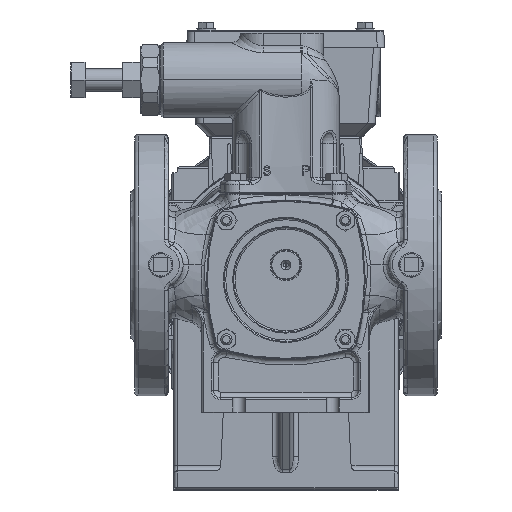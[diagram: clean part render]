
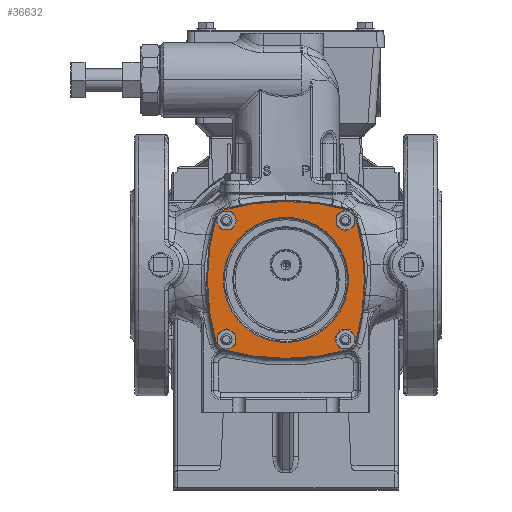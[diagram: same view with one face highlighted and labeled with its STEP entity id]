
A CAD part, top view. The second image highlights one B-rep face of the part: STEP entity #36632.
In plain terms, the highlighted planar face has unit normal (0, 0, 1) as drawn and (0, 0, -1) by its records, which use the part's own axes.
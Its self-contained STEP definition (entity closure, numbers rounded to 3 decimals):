
#34726=CARTESIAN_POINT('',(-31.82,31.82,2.));
#34727=DIRECTION('',(0.,0.,1.));
#34728=DIRECTION('',(1.,0.,0.));
#34729=AXIS2_PLACEMENT_3D('',#34726,#34727,#34728);
#34731=CARTESIAN_POINT('',(-31.82,31.82,2.));
#34732=DIRECTION('',(0.,0.,1.));
#34733=DIRECTION('',(-1.,0.,0.));
#34734=AXIS2_PLACEMENT_3D('',#34731,#34732,#34733);
#34736=CARTESIAN_POINT('',(31.82,31.82,2.));
#34737=DIRECTION('',(0.,0.,1.));
#34738=DIRECTION('',(0.,-1.,0.));
#34739=AXIS2_PLACEMENT_3D('',#34736,#34737,#34738);
#34741=CARTESIAN_POINT('',(31.82,31.82,2.));
#34742=DIRECTION('',(0.,0.,1.));
#34743=DIRECTION('',(0.,1.,0.));
#34744=AXIS2_PLACEMENT_3D('',#34741,#34742,#34743);
#34746=CARTESIAN_POINT('',(31.82,-31.82,2.));
#34747=DIRECTION('',(0.,0.,1.));
#34748=DIRECTION('',(-1.,0.,0.));
#34749=AXIS2_PLACEMENT_3D('',#34746,#34747,#34748);
#34751=CARTESIAN_POINT('',(31.82,-31.82,2.));
#34752=DIRECTION('',(0.,0.,1.));
#34753=DIRECTION('',(1.,0.,0.));
#34754=AXIS2_PLACEMENT_3D('',#34751,#34752,#34753);
#34756=CARTESIAN_POINT('',(-31.82,-31.82,2.));
#34757=DIRECTION('',(0.,0.,1.));
#34758=DIRECTION('',(0.,1.,0.));
#34759=AXIS2_PLACEMENT_3D('',#34756,#34757,#34758);
#34761=CARTESIAN_POINT('',(-31.82,-31.82,2.));
#34762=DIRECTION('',(0.,0.,1.));
#34763=DIRECTION('',(0.,-1.,0.));
#34764=AXIS2_PLACEMENT_3D('',#34761,#34762,#34763);
#34766=CARTESIAN_POINT('',(-32.901,-32.901,2.));
#34767=DIRECTION('',(0.,0.,1.));
#34768=DIRECTION('',(-0.962,-0.274,0.));
#34769=AXIS2_PLACEMENT_3D('',#34766,#34767,#34768);
#34771=CARTESIAN_POINT('',(0.,82.5,2.));
#34772=DIRECTION('',(0.,0.,1.));
#34773=DIRECTION('',(-0.274,-0.962,0.));
#34774=AXIS2_PLACEMENT_3D('',#34771,#34772,#34773);
#34776=CARTESIAN_POINT('',(32.901,-32.901,2.));
#34777=DIRECTION('',(0.,0.,1.));
#34778=DIRECTION('',(0.274,-0.962,0.));
#34779=AXIS2_PLACEMENT_3D('',#34776,#34777,#34778);
#34781=CARTESIAN_POINT('',(-82.5,0.,2.));
#34782=DIRECTION('',(0.,0.,1.));
#34783=DIRECTION('',(0.962,-0.274,0.));
#34784=AXIS2_PLACEMENT_3D('',#34781,#34782,#34783);
#34786=CARTESIAN_POINT('',(32.901,32.901,2.));
#34787=DIRECTION('',(0.,0.,1.));
#34788=DIRECTION('',(0.962,0.274,0.));
#34789=AXIS2_PLACEMENT_3D('',#34786,#34787,#34788);
#34791=CARTESIAN_POINT('',(0.,-82.5,2.));
#34792=DIRECTION('',(0.,0.,1.));
#34793=DIRECTION('',(0.274,0.962,0.));
#34794=AXIS2_PLACEMENT_3D('',#34791,#34792,#34793);
#34796=CARTESIAN_POINT('',(-32.901,32.901,2.));
#34797=DIRECTION('',(0.,0.,1.));
#34798=DIRECTION('',(-0.274,0.962,0.));
#34799=AXIS2_PLACEMENT_3D('',#34796,#34797,#34798);
#34801=CARTESIAN_POINT('',(82.5,0.,2.));
#34802=DIRECTION('',(0.,0.,1.));
#34803=DIRECTION('',(-0.962,0.274,0.));
#34804=AXIS2_PLACEMENT_3D('',#34801,#34802,#34803);
#34806=CARTESIAN_POINT('',(0.,0.,2.));
#34807=DIRECTION('',(0.,0.,1.));
#34808=DIRECTION('',(-1.,0.,0.));
#34809=AXIS2_PLACEMENT_3D('',#34806,#34807,#34808);
#34811=CARTESIAN_POINT('',(0.,0.,2.));
#34812=DIRECTION('',(0.,0.,1.));
#34813=DIRECTION('',(1.,0.,0.));
#34814=AXIS2_PLACEMENT_3D('',#34811,#34812,#34813);
#35835=CARTESIAN_POINT('',(-28.32,31.82,2.));
#35836=CARTESIAN_POINT('',(-35.32,31.82,2.));
#35837=VERTEX_POINT('',#35835);
#35838=VERTEX_POINT('',#35836);
#35843=CARTESIAN_POINT('',(31.82,28.32,2.));
#35844=CARTESIAN_POINT('',(31.82,35.32,2.));
#35845=VERTEX_POINT('',#35843);
#35846=VERTEX_POINT('',#35844);
#35851=CARTESIAN_POINT('',(28.32,-31.82,2.));
#35852=CARTESIAN_POINT('',(35.32,-31.82,2.));
#35853=VERTEX_POINT('',#35851);
#35854=VERTEX_POINT('',#35852);
#35859=CARTESIAN_POINT('',(-31.82,-28.32,2.));
#35860=CARTESIAN_POINT('',(-31.82,-35.32,2.));
#35861=VERTEX_POINT('',#35859);
#35862=VERTEX_POINT('',#35860);
#35903=CARTESIAN_POINT('',(-37.229,-34.135,2.));
#35904=CARTESIAN_POINT('',(-34.135,-37.229,2.));
#35905=VERTEX_POINT('',#35903);
#35906=VERTEX_POINT('',#35904);
#35909=CARTESIAN_POINT('',(34.135,-37.229,2.));
#35910=VERTEX_POINT('',#35909);
#35913=CARTESIAN_POINT('',(37.229,-34.135,2.));
#35914=VERTEX_POINT('',#35913);
#35917=CARTESIAN_POINT('',(37.229,34.135,2.));
#35918=VERTEX_POINT('',#35917);
#35921=CARTESIAN_POINT('',(34.135,37.229,2.));
#35922=VERTEX_POINT('',#35921);
#35925=CARTESIAN_POINT('',(-34.135,37.229,2.));
#35926=VERTEX_POINT('',#35925);
#35929=CARTESIAN_POINT('',(-37.229,34.135,2.));
#35930=VERTEX_POINT('',#35929);
#35955=CARTESIAN_POINT('',(-33.5,0.,2.));
#35956=CARTESIAN_POINT('',(33.5,0.,2.));
#35957=VERTEX_POINT('',#35955);
#35958=VERTEX_POINT('',#35956);
#36580=CARTESIAN_POINT('',(0.,0.,2.));
#36581=DIRECTION('',(0.,0.,-1.));
#36582=DIRECTION('',(-1.,0.,0.));
#36583=AXIS2_PLACEMENT_3D('',#36580,#36581,#36582);
#36584=PLANE('',#36583);
#36586=ORIENTED_EDGE('',*,*,#36585,.T.);
#36588=ORIENTED_EDGE('',*,*,#36587,.T.);
#36590=ORIENTED_EDGE('',*,*,#36589,.T.);
#36592=ORIENTED_EDGE('',*,*,#36591,.T.);
#36594=ORIENTED_EDGE('',*,*,#36593,.T.);
#36596=ORIENTED_EDGE('',*,*,#36595,.T.);
#36598=ORIENTED_EDGE('',*,*,#36597,.T.);
#36600=ORIENTED_EDGE('',*,*,#36599,.T.);
#36601=EDGE_LOOP('',(#36586,#36588,#36590,#36592,#36594,#36596,#36598,#36600));
#36602=FACE_OUTER_BOUND('',#36601,.F.);
#36604=ORIENTED_EDGE('',*,*,#36603,.F.);
#36606=ORIENTED_EDGE('',*,*,#36605,.F.);
#36607=EDGE_LOOP('',(#36604,#36606));
#36608=FACE_BOUND('',#36607,.F.);
#36610=ORIENTED_EDGE('',*,*,#36609,.F.);
#36612=ORIENTED_EDGE('',*,*,#36611,.F.);
#36613=EDGE_LOOP('',(#36610,#36612));
#36614=FACE_BOUND('',#36613,.F.);
#36616=ORIENTED_EDGE('',*,*,#36615,.F.);
#36618=ORIENTED_EDGE('',*,*,#36617,.F.);
#36619=EDGE_LOOP('',(#36616,#36618));
#36620=FACE_BOUND('',#36619,.F.);
#36621=ORIENTED_EDGE('',*,*,#36570,.F.);
#36623=ORIENTED_EDGE('',*,*,#36622,.F.);
#36624=EDGE_LOOP('',(#36621,#36623));
#36625=FACE_BOUND('',#36624,.F.);
#36627=ORIENTED_EDGE('',*,*,#36626,.F.);
#36629=ORIENTED_EDGE('',*,*,#36628,.F.);
#36630=EDGE_LOOP('',(#36627,#36629));
#36631=FACE_BOUND('',#36630,.F.);
#36632=ADVANCED_FACE('',(#36602,#36608,#36614,#36620,#36625,#36631),#36584,.T.);
#34730=CIRCLE('',#34729,3.5);
#34735=CIRCLE('',#34734,3.5);
#34740=CIRCLE('',#34739,3.5);
#34745=CIRCLE('',#34744,3.5);
#34750=CIRCLE('',#34749,3.5);
#34755=CIRCLE('',#34754,3.5);
#34760=CIRCLE('',#34759,3.5);
#34765=CIRCLE('',#34764,3.5);
#34770=CIRCLE('',#34769,4.5);
#34775=CIRCLE('',#34774,124.5);
#34780=CIRCLE('',#34779,4.5);
#34785=CIRCLE('',#34784,124.5);
#34790=CIRCLE('',#34789,4.5);
#34795=CIRCLE('',#34794,124.5);
#34800=CIRCLE('',#34799,4.5);
#34805=CIRCLE('',#34804,124.5);
#34810=CIRCLE('',#34809,33.5);
#34815=CIRCLE('',#34814,33.5);
#36570=EDGE_CURVE('',#35837,#35838,#34730,.T.);
#36585=EDGE_CURVE('',#35905,#35906,#34770,.T.);
#36587=EDGE_CURVE('',#35906,#35910,#34775,.T.);
#36589=EDGE_CURVE('',#35910,#35914,#34780,.T.);
#36591=EDGE_CURVE('',#35914,#35918,#34785,.T.);
#36593=EDGE_CURVE('',#35918,#35922,#34790,.T.);
#36595=EDGE_CURVE('',#35922,#35926,#34795,.T.);
#36597=EDGE_CURVE('',#35926,#35930,#34800,.T.);
#36599=EDGE_CURVE('',#35930,#35905,#34805,.T.);
#36603=EDGE_CURVE('',#35845,#35846,#34740,.T.);
#36605=EDGE_CURVE('',#35846,#35845,#34745,.T.);
#36609=EDGE_CURVE('',#35853,#35854,#34750,.T.);
#36611=EDGE_CURVE('',#35854,#35853,#34755,.T.);
#36615=EDGE_CURVE('',#35861,#35862,#34760,.T.);
#36617=EDGE_CURVE('',#35862,#35861,#34765,.T.);
#36622=EDGE_CURVE('',#35838,#35837,#34735,.T.);
#36626=EDGE_CURVE('',#35957,#35958,#34810,.T.);
#36628=EDGE_CURVE('',#35958,#35957,#34815,.T.);
